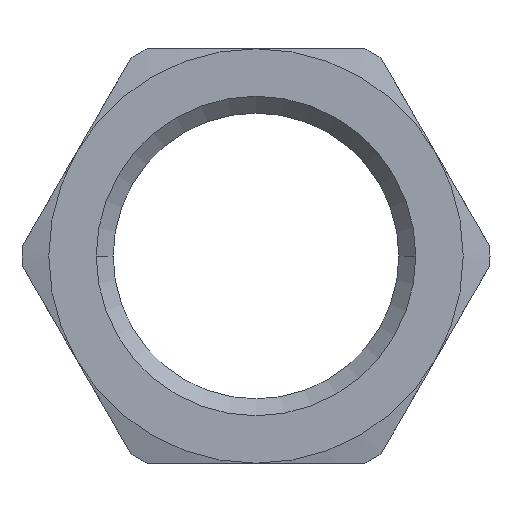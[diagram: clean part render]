
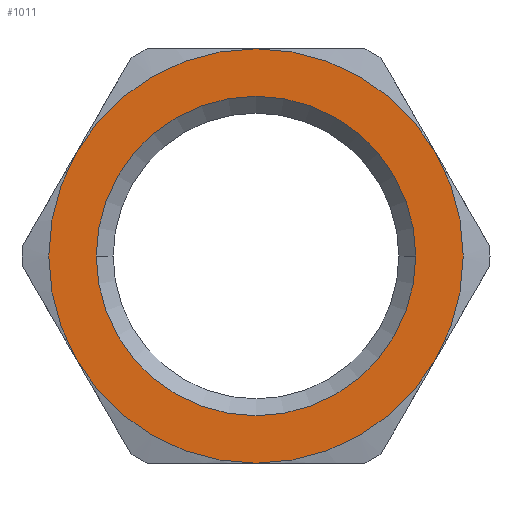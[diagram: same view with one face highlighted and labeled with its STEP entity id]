
A CAD part, left-side view. The second image highlights one B-rep face of the part: STEP entity #1011.
In plain terms, the highlighted planar face has unit normal (-1, 0, 0) as drawn and (0, 0, 1) by its records, which use the part's own axes.
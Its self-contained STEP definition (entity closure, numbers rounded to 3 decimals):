
#299=CARTESIAN_POINT('',(0.,9.25,3.));
#300=VERTEX_POINT('',#299);
#314=CARTESIAN_POINT('',(0.,-9.25,3.0));
#315=VERTEX_POINT('',#314);
#322=CARTESIAN_POINT('',(0.,0.,3.0));
#323=DIRECTION('',(0.0,0.0,-1.0));
#324=DIRECTION('',(0.0,1.0,0.0));
#325=AXIS2_PLACEMENT_3D('',#322,#323,#324);
#326=CIRCLE('',#325,9.25);
#327=EDGE_CURVE('',#300,#315,#326,.T.);
#338=CARTESIAN_POINT('',(0.,0.,3.0));
#339=DIRECTION('',(0.0,0.0,-1.0));
#340=DIRECTION('',(0.0,1.0,0.0));
#341=AXIS2_PLACEMENT_3D('',#338,#339,#340);
#342=CIRCLE('',#341,9.25);
#343=EDGE_CURVE('',#315,#300,#342,.T.);
#626=CARTESIAN_POINT('',(-12.0,0.,3.0));
#627=VERTEX_POINT('',#626);
#641=CARTESIAN_POINT('',(-6.,10.392,3.0));
#642=VERTEX_POINT('',#641);
#643=CARTESIAN_POINT('',(0.,0.0,3.0));
#644=DIRECTION('',(0.0,0.0,1.0));
#645=DIRECTION('',(1.0,0.0,0.0));
#646=AXIS2_PLACEMENT_3D('',#643,#644,#645);
#647=CIRCLE('',#646,12.);
#648=EDGE_CURVE('',#642,#627,#647,.T.);
#702=CARTESIAN_POINT('',(-6.,-10.392,3.0));
#703=VERTEX_POINT('',#702);
#717=CARTESIAN_POINT('',(0.,0.0,3.0));
#718=DIRECTION('',(0.0,0.0,1.0));
#719=DIRECTION('',(1.0,0.0,0.0));
#720=AXIS2_PLACEMENT_3D('',#717,#718,#719);
#721=CIRCLE('',#720,12.);
#722=EDGE_CURVE('',#627,#703,#721,.T.);
#764=CARTESIAN_POINT('',(6.,-10.392,3.0));
#765=VERTEX_POINT('',#764);
#779=CARTESIAN_POINT('',(0.,0.0,3.0));
#780=DIRECTION('',(0.0,0.0,1.0));
#781=DIRECTION('',(1.0,0.0,0.0));
#782=AXIS2_PLACEMENT_3D('',#779,#780,#781);
#783=CIRCLE('',#782,12.);
#784=EDGE_CURVE('',#703,#765,#783,.T.);
#827=CARTESIAN_POINT('',(12.,0.0,3.0));
#828=VERTEX_POINT('',#827);
#842=CARTESIAN_POINT('',(0.,0.0,3.0));
#843=DIRECTION('',(0.0,0.0,1.0));
#844=DIRECTION('',(1.0,0.0,0.0));
#845=AXIS2_PLACEMENT_3D('',#842,#843,#844);
#846=CIRCLE('',#845,12.);
#847=EDGE_CURVE('',#765,#828,#846,.T.);
#872=CARTESIAN_POINT('',(6.,10.392,3.0));
#873=VERTEX_POINT('',#872);
#874=CARTESIAN_POINT('',(0.,0.0,3.0));
#875=DIRECTION('',(0.0,0.0,1.0));
#876=DIRECTION('',(1.0,0.0,0.0));
#877=AXIS2_PLACEMENT_3D('',#874,#875,#876);
#878=CIRCLE('',#877,12.);
#879=EDGE_CURVE('',#873,#642,#878,.T.);
#917=CARTESIAN_POINT('',(0.,0.0,3.0));
#918=DIRECTION('',(0.0,0.0,1.0));
#919=DIRECTION('',(1.0,0.0,0.0));
#920=AXIS2_PLACEMENT_3D('',#917,#918,#919);
#921=CIRCLE('',#920,12.);
#922=EDGE_CURVE('',#828,#873,#921,.T.);
#994=CARTESIAN_POINT('',(0.,0.,3.0));
#995=DIRECTION('',(0.0,0.0,1.0));
#996=DIRECTION('',(1.0,0.0,0.0));
#997=AXIS2_PLACEMENT_3D('',#994,#995,#996);
#998=PLANE('',#997);
#999=ORIENTED_EDGE('',*,*,#847,.T.);
#1000=ORIENTED_EDGE('',*,*,#922,.T.);
#1001=ORIENTED_EDGE('',*,*,#879,.T.);
#1002=ORIENTED_EDGE('',*,*,#648,.T.);
#1003=ORIENTED_EDGE('',*,*,#722,.T.);
#1004=ORIENTED_EDGE('',*,*,#784,.T.);
#1005=EDGE_LOOP('',(#999,#1000,#1001,#1002,#1003,#1004));
#1006=FACE_OUTER_BOUND('',#1005,.T.);
#1007=ORIENTED_EDGE('',*,*,#327,.T.);
#1008=ORIENTED_EDGE('',*,*,#343,.T.);
#1009=EDGE_LOOP('',(#1007,#1008));
#1010=FACE_BOUND('',#1009,.T.);
#1011=ADVANCED_FACE('',(#1006,#1010),#998,.T.);
